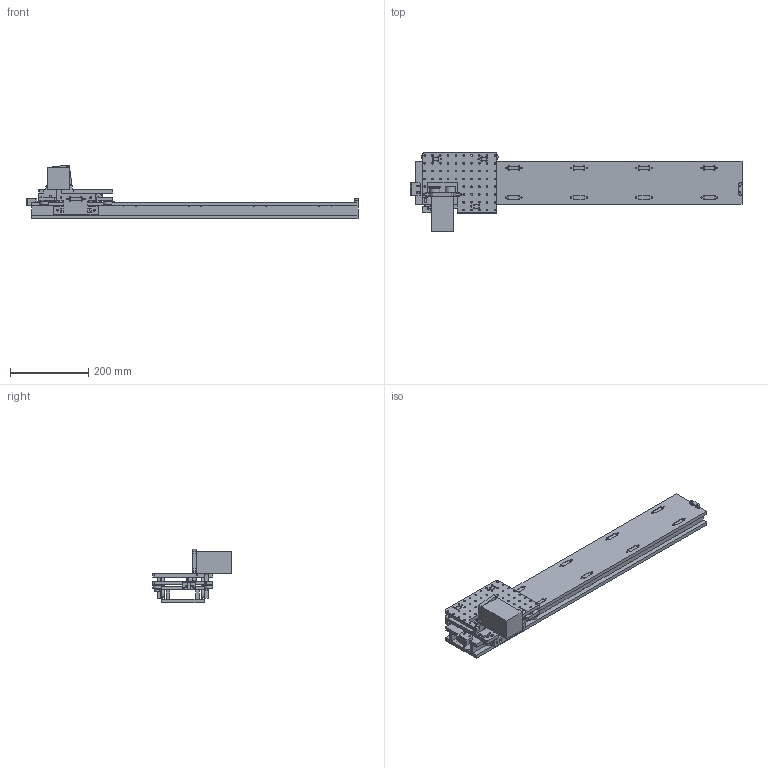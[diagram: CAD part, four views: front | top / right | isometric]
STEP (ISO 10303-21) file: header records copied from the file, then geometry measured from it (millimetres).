
FILE_DESCRIPTION(/* description */ (''),/* implementation_level */ '2;1');
FILE_NAME(/* name */ 'D:/Dropbox (Personal)/CBA/projects/machines/rctgantries/cad/RCTN23-0375HDPE-100-610.step',/* time_stamp */ '2018-10-23T10:18:13-04:00',/* author */ ('jakerobertread@gmail.com'),/* organization */ (''),/* preprocessor_version */ 'ST-DEVELOPER v17.2',/* originating_system */ 'Autodesk Translation Framework v7.6.0.251',/* authorisation */ '');
FILE_SCHEMA (('AUTOMOTIVE_DESIGN { 1 0 10303 214 3 1 1 }'));
Length unit declared in the file: millimetre
Products named in the file (1): RCTN23-0375HDPE
Bounding box: 850.7 x 202.4 x 138.3 mm (x, y, z)
Volume: 3016841 mm3; surface area: 762208.4 mm2
Topology: 30 solids, 30 shells, 1267 faces, 3610 edges, 2406 vertices
Faces by surface type: cylinder 816, plane 447, cone 3, torus 1
Full cylindrical faces by diameter (mm): 2.5 x14, 2.94 x4, 3.25 x47, 4 x10, 4.2 x62, 5 x28, 13 x1, 18 x1, 22 x13, 25.4 x3, 29.4 x1
Entity records: 42811 total; most frequent: DIRECTION 7785, CARTESIAN_POINT 7284, ORIENTED_EDGE 7220, EDGE_CURVE 3610, AXIS2_PLACEMENT_3D 2907, VERTEX_POINT 2406, LINE 1971, VECTOR 1971
